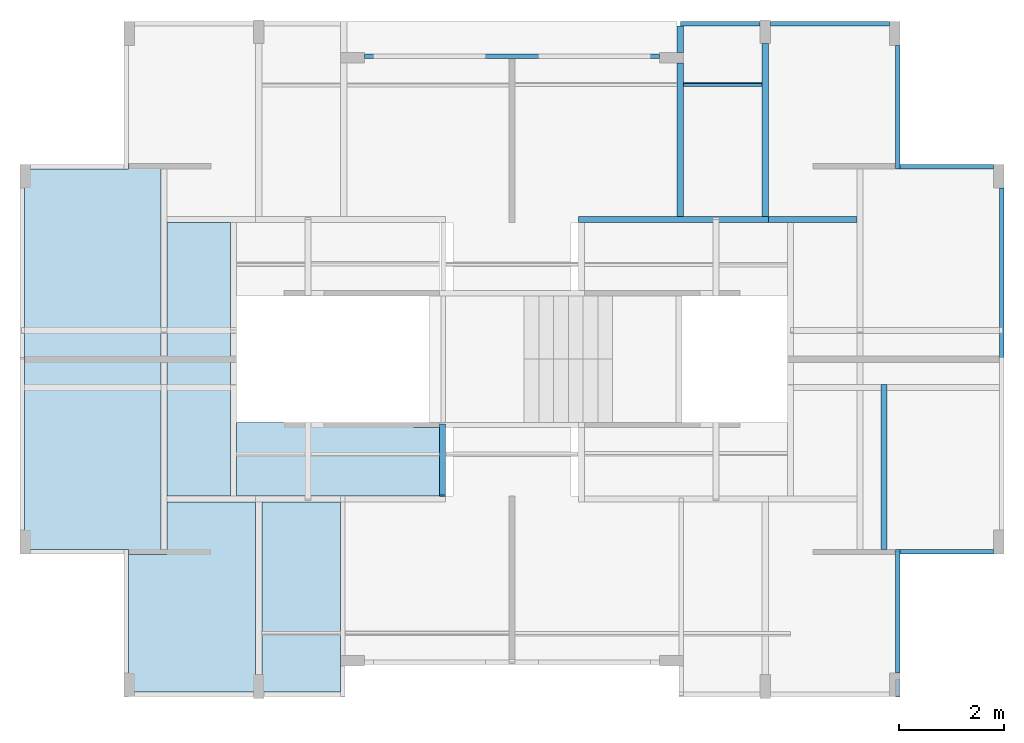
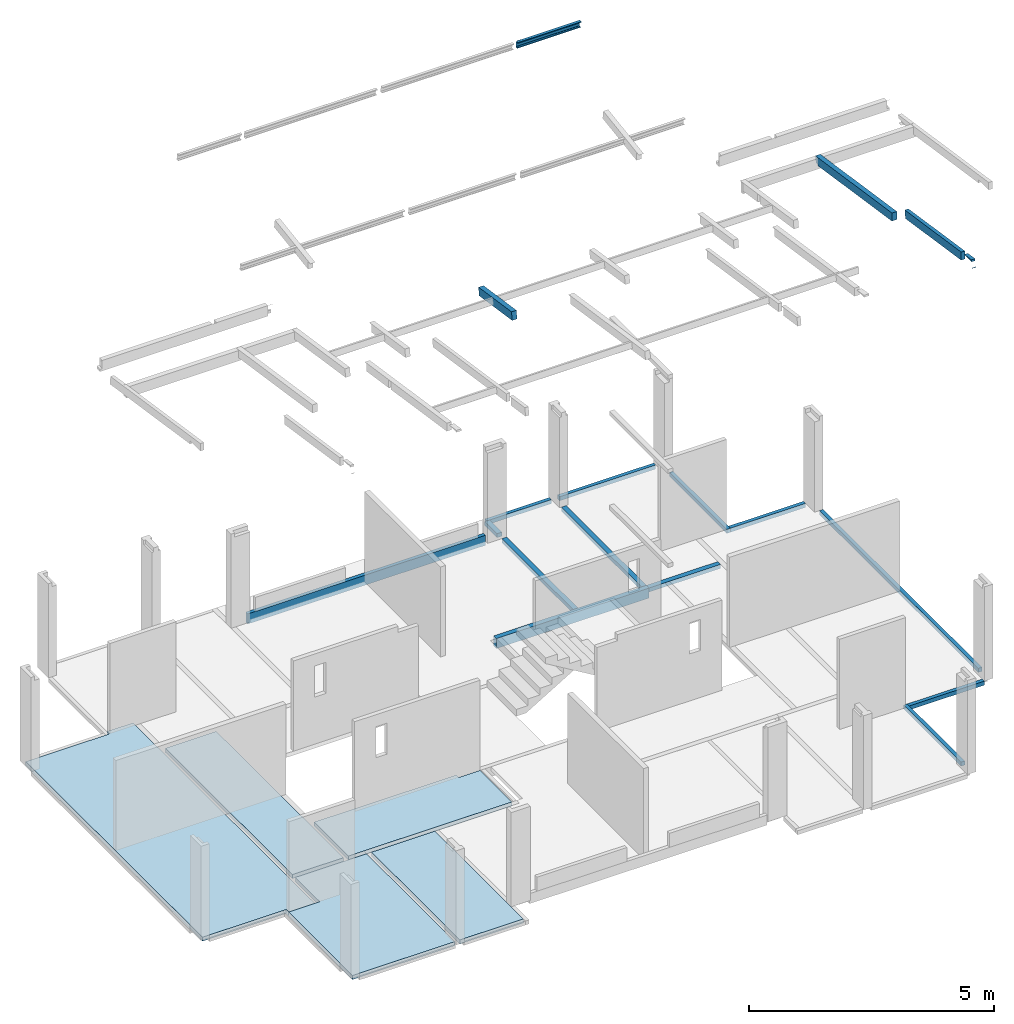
# One storey, part 5 of 9: 15 beams, 5 slabs.
"""IFC4 building model written with IfcOpenShell, lengths in metres."""

from ifc_helpers import new_model, entity, si_unit, converted_unit, derived_unit, direction, frame, frame_2d, origin, place, context, subcontext, project, spatial, polyline, line, arc, indexed_curve, rectangle, outline, extrude, polygons, source, transform, mapped, material, type_object, type_shapes, element, save


model = new_model("IFC4")

# Units and contexts
model_context = context("Model", 3, precision=1e-05, world=origin(), true_north=direction((6.123031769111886e-17, 1.0)))
body_context = subcontext(model_context, "Body", "Model", "MODEL_VIEW")
ifc_project = project(units=[si_unit("LENGTHUNIT", "METRE"), si_unit("AREAUNIT", "SQUARE_METRE"), si_unit("VOLUMEUNIT", "CUBIC_METRE"), converted_unit("PLANEANGLEUNIT", "DEGREE", entity("IfcRatioMeasure", 0.017453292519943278), si_unit("PLANEANGLEUNIT", "RADIAN"), dimensions=[0, 0, 0, 0, 0, 0, 0]), si_unit("MASSUNIT", "GRAM", prefix="KILO"), derived_unit("MASSDENSITYUNIT", [(si_unit("MASSUNIT", "GRAM", prefix="KILO"), 1), (si_unit("LENGTHUNIT", "METRE"), -3)]), derived_unit("IONCONCENTRATIONUNIT", [(si_unit("MASSUNIT", "GRAM", prefix="KILO"), 1), (si_unit("LENGTHUNIT", "METRE"), -3)]), derived_unit("MOMENTOFINERTIAUNIT", [(si_unit("LENGTHUNIT", "METRE"), 4)]), si_unit("TIMEUNIT", "SECOND"), si_unit("FREQUENCYUNIT", "HERTZ"), si_unit("THERMODYNAMICTEMPERATUREUNIT", "DEGREE_CELSIUS"), derived_unit("THERMALTRANSMITTANCEUNIT", [(si_unit("MASSUNIT", "GRAM", prefix="KILO"), 1), (si_unit("THERMODYNAMICTEMPERATUREUNIT", "KELVIN"), -1), (si_unit("TIMEUNIT", "SECOND"), -3)]), derived_unit("THERMALCONDUCTANCEUNIT", [(si_unit("MASSUNIT", "GRAM", prefix="KILO"), 1), (si_unit("THERMODYNAMICTEMPERATUREUNIT", "KELVIN"), -1), (si_unit("TIMEUNIT", "SECOND"), -3), (si_unit("LENGTHUNIT", "METRE"), 1)]), derived_unit("VOLUMETRICFLOWRATEUNIT", [(si_unit("LENGTHUNIT", "METRE"), 3), (si_unit("TIMEUNIT", "SECOND"), -1)]), derived_unit("MASSFLOWRATEUNIT", [(si_unit("MASSUNIT", "GRAM", prefix="KILO"), 1), (si_unit("TIMEUNIT", "SECOND"), -1)]), derived_unit("ROTATIONALFREQUENCYUNIT", [(si_unit("TIMEUNIT", "SECOND"), -1)]), si_unit("ELECTRICCURRENTUNIT", "AMPERE"), si_unit("ELECTRICVOLTAGEUNIT", "VOLT"), si_unit("POWERUNIT", "WATT"), si_unit("FORCEUNIT", "NEWTON", prefix="KILO"), si_unit("ILLUMINANCEUNIT", "LUX"), si_unit("LUMINOUSFLUXUNIT", "LUMEN"), si_unit("LUMINOUSINTENSITYUNIT", "CANDELA"), derived_unit("USERDEFINED", [(si_unit("MASSUNIT", "GRAM", prefix="KILO"), -1), (si_unit("LENGTHUNIT", "METRE"), -2), (si_unit("TIMEUNIT", "SECOND"), 3), (si_unit("LUMINOUSFLUXUNIT", "LUMEN"), 1)]), derived_unit("USERDEFINED", [(si_unit("MASSUNIT", "GRAM", prefix="KILO"), 1), (si_unit("TIMEUNIT", "SECOND"), -3), (si_unit("LENGTHUNIT", "METRE"), 3), (si_unit("ELECTRICCURRENTUNIT", "AMPERE"), -2)]), derived_unit("SOUNDPOWERUNIT", [(si_unit("MASSUNIT", "GRAM", prefix="KILO"), 1), (si_unit("TIMEUNIT", "SECOND"), -3), (si_unit("LENGTHUNIT", "METRE"), 2)]), derived_unit("SOUNDPRESSUREUNIT", [(si_unit("MASSUNIT", "GRAM", prefix="KILO"), 1), (si_unit("LENGTHUNIT", "METRE"), -1), (si_unit("TIMEUNIT", "SECOND"), -2)]), derived_unit("LINEARVELOCITYUNIT", [(si_unit("LENGTHUNIT", "METRE"), 1), (si_unit("TIMEUNIT", "SECOND"), -1)]), si_unit("PRESSUREUNIT", "PASCAL"), derived_unit("USERDEFINED", [(si_unit("MASSUNIT", "GRAM", prefix="KILO"), 1), (si_unit("LENGTHUNIT", "METRE"), -2), (si_unit("TIMEUNIT", "SECOND"), -2)]), derived_unit("LINEARFORCEUNIT", [(si_unit("MASSUNIT", "GRAM", prefix="KILO"), 1), (si_unit("TIMEUNIT", "SECOND"), -2)]), derived_unit("PLANARFORCEUNIT", [(si_unit("MASSUNIT", "GRAM", prefix="KILO"), 1), (si_unit("LENGTHUNIT", "METRE"), -1), (si_unit("TIMEUNIT", "SECOND"), -2)]), derived_unit("SPECIFICHEATCAPACITYUNIT", [(si_unit("THERMODYNAMICTEMPERATUREUNIT", "KELVIN"), -1), (si_unit("LENGTHUNIT", "METRE"), 2), (si_unit("TIMEUNIT", "SECOND"), -2)]), derived_unit("HEATINGVALUEUNIT", [(si_unit("LENGTHUNIT", "METRE"), 2), (si_unit("TIMEUNIT", "SECOND"), -2)]), derived_unit("VAPORPERMEABILITYUNIT", [(si_unit("LENGTHUNIT", "METRE"), -1), (si_unit("TIMEUNIT", "SECOND"), 1)]), derived_unit("DYNAMICVISCOSITYUNIT", [(si_unit("MASSUNIT", "GRAM", prefix="KILO"), 1), (si_unit("TIMEUNIT", "SECOND"), -1), (si_unit("LENGTHUNIT", "METRE"), -1)]), derived_unit("THERMALEXPANSIONCOEFFICIENTUNIT", [(si_unit("THERMODYNAMICTEMPERATUREUNIT", "KELVIN"), -1)]), derived_unit("MODULUSOFELASTICITYUNIT", [(si_unit("MASSUNIT", "GRAM", prefix="KILO"), 1), (si_unit("LENGTHUNIT", "METRE"), -1), (si_unit("TIMEUNIT", "SECOND"), -2)]), derived_unit("ISOTHERMALMOISTURECAPACITYUNIT", [(si_unit("LENGTHUNIT", "METRE"), 3), (si_unit("MASSUNIT", "GRAM", prefix="KILO"), -1)]), derived_unit("MOISTUREDIFFUSIVITYUNIT", [(si_unit("TIMEUNIT", "SECOND"), -1), (si_unit("LENGTHUNIT", "METRE"), 2)])], contexts=[model_context])

# Site, building, storey
site_placement = place(None, origin())
site = spatial("IfcSite", under=ifc_project, at=site_placement, Name="Default", CompositionType="ELEMENT")
building_placement = place(site_placement, origin())
building = spatial("IfcBuilding", under=site, at=building_placement, Name="Las nubes", CompositionType="ELEMENT")
storey_placement = place(building_placement, frame((0.0, 0.0, 2.3500000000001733)))
storey = spatial("IfcBuildingStorey", under=building, at=storey_placement, Name="PISO 2", CompositionType="ELEMENT", Elevation=2.3500000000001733)

# Beams
ifc_material_1 = material(Name="Concrete - Cast-in-Place Concrete - 28 MPa SLAB", Category="Materials")
beam_type_1 = type_object("IfcBeamType", Name="M_Concrete-Rectangular Beam:(0.085x0.10)", PredefinedType="BEAM", material=ifc_material_1)
shared_shape_1 = source(origin(), body_context, "Body", "SweptSolid", [
    extrude(outline(indexed_curve([(-0.042500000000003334, -0.05), (0.042499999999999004, -0.05), (0.042499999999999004, 0.05), (-0.042500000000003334, 0.05), (-0.042500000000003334, -0.05)], self_intersect=False)), frame((16.655000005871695, -12.390000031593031, 2.3000000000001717), z_axis=(0.0, 1.0, 0.0), x_axis=(-1.0, 0.0, 0.0)), (0.0, 0.0, 1.0), 2.3500028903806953),
])
type_shapes(beam_type_1, [shared_shape_1])
beam_1_placement = place(storey_placement, frame((0.0, 0.0, -2.3500000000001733)))
element("IfcBeam", 1, at=beam_1_placement, inside=storey, type_object=beam_type_1, material=ifc_material_1, Name="M_Concrete-Rectangular Beam:(0.085x0.10)", ObjectType="M_Concrete-Rectangular Beam:(0.085x0.10)", PredefinedType="BEAM", context=body_context, shape_type="MappedRepresentation", body=[
    mapped(shared_shape_1, transform((0.0, 0.0, 0.0), scale=1.0)),
])
beam_type_2 = type_object("IfcBeamType", Name="M_Concrete-Rectangular Beam:(0.085x0.10)", PredefinedType="BEAM", material=ifc_material_1)
shared_shape_2 = source(origin(), body_context, "Body", "SweptSolid", [
    extrude(outline(indexed_curve([(-0.050000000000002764, -0.04249999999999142), (0.04999999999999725, -0.042500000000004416), (0.050000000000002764, 0.04249999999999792), (-0.04999999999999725, 0.042500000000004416), (-0.050000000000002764, -0.04249999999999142)], self_intersect=False)), frame((16.697500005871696, -10.082497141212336, 2.3000000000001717), z_axis=(1.0, 0.0, 0.0), x_axis=(0.0, 0.0, -1.0)), (0.0, 0.0, 1.0), 1.7749999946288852),
])
type_shapes(beam_type_2, [shared_shape_2])
beam_2_placement = place(storey_placement, frame((0.0, 0.0, -2.3500000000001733)))
element("IfcBeam", 2, at=beam_2_placement, inside=storey, type_object=beam_type_2, material=ifc_material_1, Name="M_Concrete-Rectangular Beam:(0.085x0.10)", ObjectType="M_Concrete-Rectangular Beam:(0.085x0.10)", PredefinedType="BEAM", context=body_context, shape_type="MappedRepresentation", body=[
    mapped(shared_shape_2, transform((0.0, 0.0, 0.0), scale=1.0)),
])
beam_type_3 = type_object("IfcBeamType", Name="M_Concrete-Rectangular Beam:(0.085x0.10)", PredefinedType="BEAM", material=ifc_material_1)
shared_shape_3 = source(origin(), body_context, "Body", "SweptSolid", [
    extrude(outline(indexed_curve([(-0.042499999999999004, -0.05), (0.042500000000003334, -0.05), (0.042500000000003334, 0.05), (-0.042499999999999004, 0.05), (-0.042499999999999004, -0.05)], self_intersect=False)), frame((18.630000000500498, -9.675000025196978, 2.3000000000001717), z_axis=(0.0, 1.0, 0.0), x_axis=(-1.0, 0.0, 0.0)), (0.0, 0.0, 1.0), 6.499999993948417),
])
type_shapes(beam_type_3, [shared_shape_3])
beam_3_placement = place(storey_placement, frame((0.0, 0.0, -2.3500000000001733)))
element("IfcBeam", 3, at=beam_3_placement, inside=storey, type_object=beam_type_3, material=ifc_material_1, Name="M_Concrete-Rectangular Beam:(0.085x0.10)", ObjectType="M_Concrete-Rectangular Beam:(0.085x0.10)", PredefinedType="BEAM", context=body_context, shape_type="MappedRepresentation", body=[
    mapped(shared_shape_3, transform((0.0, 0.0, 0.0), scale=1.0)),
])
beam_type_4 = type_object("IfcBeamType", Name="M_Concrete-Rectangular Beam:(0.085x0.10)", PredefinedType="BEAM", material=ifc_material_1)
shared_shape_4 = source(origin(), body_context, "Body", "SweptSolid", [
    extrude(outline(indexed_curve([(-0.042500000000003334, -0.05), (0.042499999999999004, -0.05), (0.042499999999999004, 0.05), (-0.042500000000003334, 0.05), (-0.042500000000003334, -0.05)], self_intersect=False)), frame((16.65500000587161, -2.8099983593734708, 2.3000000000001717), z_axis=(0.0, 1.0, 0.0), x_axis=(-1.0, 0.0, 0.0)), (0.0, 0.0, 1.0), 2.34999833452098),
])
type_shapes(beam_type_4, [shared_shape_4])
beam_4_placement = place(storey_placement, frame((0.0, 0.0, -2.3500000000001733)))
element("IfcBeam", 4, at=beam_4_placement, inside=storey, type_object=beam_type_4, material=ifc_material_1, Name="M_Concrete-Rectangular Beam:(0.085x0.10)", ObjectType="M_Concrete-Rectangular Beam:(0.085x0.10)", PredefinedType="BEAM", context=body_context, shape_type="MappedRepresentation", body=[
    mapped(shared_shape_4, transform((0.0, 0.0, 0.0), scale=1.0)),
])
ifc_material_2 = material(Name="Concrete, Cast In Situ", Category="Materials")
beam_type_5 = type_object("IfcBeamType", Name="M_Concrete-Rectangular Beam:(0.115x0.25)", PredefinedType="BEAM", material=ifc_material_2)
shared_shape_5 = source(origin(), body_context, "Body", "SweptSolid", [
    extrude(outline(indexed_curve([(-0.12500000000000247, -0.05749999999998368), (0.12499999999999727, -0.0575000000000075), (0.12500000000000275, 0.05749999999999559), (-0.124999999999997, 0.0575000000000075), (-0.12500000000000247, -0.05749999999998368)], self_intersect=False)), frame((10.58249999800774, -3.767499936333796, 2.2250000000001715), z_axis=(1.0, 0.0, 0.0), x_axis=(0.0, 0.0, -1.0)), (0.0, 0.0, 1.0), 3.6100000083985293),
])
type_shapes(beam_type_5, [shared_shape_5])
beam_5_placement = place(storey_placement, frame((0.0, 0.0, -2.3500000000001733)))
element("IfcBeam", 5, at=beam_5_placement, inside=storey, type_object=beam_type_5, material=ifc_material_2, Name="M_Concrete-Rectangular Beam:(0.115x0.25)", ObjectType="M_Concrete-Rectangular Beam:(0.115x0.25)", PredefinedType="BEAM", context=body_context, shape_type="MappedRepresentation", body=[
    mapped(shared_shape_5, transform((0.0, 0.0, 0.0), scale=1.0)),
])
beam_type_6 = type_object("IfcBeamType", Name="M_Concrete-Rectangular Beam:(0.085x0.25)", PredefinedType="BEAM", material=ifc_material_2)
shared_shape_6 = source(origin(), body_context, "Body", "SweptSolid", [
    extrude(outline(indexed_curve([(-0.12500000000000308, -0.042499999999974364), (0.12499999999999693, -0.04250000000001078), (0.12500000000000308, 0.04249999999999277), (-0.12499999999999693, 0.04250000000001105), (-0.12500000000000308, -0.042499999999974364)], self_intersect=False)), frame((6.517499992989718, -0.6675000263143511, 2.3750000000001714), z_axis=(1.0, 0.0, 0.0), x_axis=(0.0, 0.0, -1.0)), (0.0, 0.0, 1.0), 5.610000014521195),
])
type_shapes(beam_type_6, [shared_shape_6])
beam_6_placement = place(storey_placement, frame((0.0, 0.0, -2.3500000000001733)))
element("IfcBeam", 6, at=beam_6_placement, inside=storey, type_object=beam_type_6, material=ifc_material_2, Name="M_Concrete-Rectangular Beam:(0.085x0.25)", ObjectType="M_Concrete-Rectangular Beam:(0.085x0.25)", PredefinedType="BEAM", context=body_context, shape_type="MappedRepresentation", body=[
    mapped(shared_shape_6, transform((0.0, 0.0, 0.0), scale=1.0)),
])
beam_type_7 = type_object("IfcBeamType", Name="M_Concrete-Rectangular Beam:(0.115x0.10)", PredefinedType="BEAM", material=ifc_material_2)
shared_shape_7 = source(origin(), body_context, "Body", "SweptSolid", [
    extrude(outline(indexed_curve([(-0.05000000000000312, -0.057499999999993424), (0.049999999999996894, -0.057500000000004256), (0.05000000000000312, 0.057499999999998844), (-0.049999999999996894, 0.057500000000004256), (-0.05000000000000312, -0.057499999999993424)], self_intersect=False)), frame((14.192500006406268, -3.7675000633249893, 2.3000000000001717), z_axis=(1.0, 0.0, 0.0), x_axis=(0.0, 0.0, -1.0)), (0.0, 0.0, 1.0), 1.6849989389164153),
])
type_shapes(beam_type_7, [shared_shape_7])
beam_7_placement = place(storey_placement, frame((0.0, 0.0, -2.3500000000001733)))
element("IfcBeam", 7, at=beam_7_placement, inside=storey, type_object=beam_type_7, material=ifc_material_2, Name="M_Concrete-Rectangular Beam:(0.115x0.10)", ObjectType="M_Concrete-Rectangular Beam:(0.115x0.10)", PredefinedType="BEAM", context=body_context, shape_type="MappedRepresentation", body=[
    mapped(shared_shape_7, transform((0.0, 0.0, 0.0), scale=1.0)),
])
beam_type_8 = type_object("IfcBeamType", Name="M_Concrete-Rectangular Beam:(0.115x0.10)", PredefinedType="BEAM", material=ifc_material_2)
shared_shape_8 = source(origin(), body_context, "Body", "SweptSolid", [
    extrude(outline(indexed_curve([(-0.057499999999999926, -0.05), (0.05750000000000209, -0.05), (0.057500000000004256, 0.05), (-0.05750000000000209, 0.05), (-0.057499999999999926, -0.05)], self_intersect=False)), frame((14.135000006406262, -0.4300000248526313, 2.3000000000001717), z_axis=(0.0, -1.0, 0.0), x_axis=(-1.0, 0.0, 0.0)), (0.0, 0.0, 1.0), 3.2799999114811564),
])
type_shapes(beam_type_8, [shared_shape_8])
beam_8_placement = place(storey_placement, frame((0.0, 0.0, -2.3500000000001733)))
element("IfcBeam", 8, at=beam_8_placement, inside=storey, type_object=beam_type_8, material=ifc_material_2, Name="M_Concrete-Rectangular Beam:(0.115x0.10)", ObjectType="M_Concrete-Rectangular Beam:(0.115x0.10)", PredefinedType="BEAM", context=body_context, shape_type="MappedRepresentation", body=[
    mapped(shared_shape_8, transform((0.0, 0.0, 0.0), scale=1.0)),
])
beam_type_9 = type_object("IfcBeamType", Name="M_Concrete-Rectangular Beam:(0.085x0.10)", PredefinedType="BEAM", material=ifc_material_2)
shared_shape_9 = source(origin(), body_context, "Body", "SweptSolid", [
    extrude(outline(indexed_curve([(-0.050000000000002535, -0.04249999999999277), (0.04999999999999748, -0.04250000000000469), (0.050000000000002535, 0.04249999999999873), (-0.04999999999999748, 0.04250000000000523), (-0.050000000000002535, -0.04249999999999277)], self_intersect=False)), frame((18.472500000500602, -2.7674983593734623, 2.3000000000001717), z_axis=(-1.0, 0.0, 0.0), x_axis=(0.0, 0.0, -1.0)), (0.0, 0.0, 1.0), 1.7749999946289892),
])
type_shapes(beam_type_9, [shared_shape_9])
beam_9_placement = place(storey_placement, frame((0.0, 0.0, -2.3500000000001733)))
element("IfcBeam", 9, at=beam_9_placement, inside=storey, type_object=beam_type_9, material=ifc_material_2, Name="M_Concrete-Rectangular Beam:(0.085x0.10)", ObjectType="M_Concrete-Rectangular Beam:(0.085x0.10)", PredefinedType="BEAM", context=body_context, shape_type="MappedRepresentation", body=[
    mapped(shared_shape_9, transform((0.0, 0.0, 0.0), scale=1.0)),
])
beam_type_10 = type_object("IfcBeamType", Name="M_Concrete-Rectangular Beam:(0.085x0.10)", PredefinedType="BEAM", material=ifc_material_1)
shared_shape_10 = source(origin(), body_context, "Body", "SweptSolid", [
    extrude(outline(indexed_curve([(-0.050000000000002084, -0.042499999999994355), (0.04999999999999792, -0.04250000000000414), (0.050000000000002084, 0.04249999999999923), (-0.04999999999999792, 0.04250000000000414), (-0.050000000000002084, -0.042499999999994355)], self_intersect=False)), frame((14.035000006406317, -0.052500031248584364, 2.3000000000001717), z_axis=(-1.0, 0.0, 0.0), x_axis=(0.0, 0.0, -1.0)), (0.0, 0.0, 1.0), 1.5149999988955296),
    extrude(outline(indexed_curve([(-0.05000000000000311, -0.042499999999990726), (0.0499999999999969, -0.042500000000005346), (0.05000000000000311, 0.04249999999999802), (-0.0499999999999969, 0.042500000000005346), (-0.05000000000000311, -0.042499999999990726)], self_intersect=False)), frame((16.497500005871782, -0.05250003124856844, 2.3000000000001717), z_axis=(-1.0, 0.0, 0.0), x_axis=(0.0, 0.0, -1.0)), (0.0, 0.0, 1.0), 2.2624999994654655),
])
type_shapes(beam_type_10, [shared_shape_10])
beam_10_placement = place(storey_placement, frame((0.0, 0.0, -2.3500000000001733)))
element("IfcBeam", 10, at=beam_10_placement, inside=storey, type_object=beam_type_10, material=ifc_material_1, Name="M_Concrete-Rectangular Beam:(0.085x0.10)", ObjectType="M_Concrete-Rectangular Beam:(0.085x0.10)", PredefinedType="BEAM", context=body_context, shape_type="MappedRepresentation", body=[
    mapped(shared_shape_10, transform((0.0, 0.0, 0.0), scale=1.0)),
])
beam_type_11 = type_object("IfcBeamType", Name="M_Concrete-Rectangular Beam:(0.115x0.10)", PredefinedType="BEAM", material=ifc_material_2)
shared_shape_11 = source(origin(), body_context, "Body", "SweptSolid", [
    extrude(outline(indexed_curve([(-0.05750000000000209, -0.05), (0.05750000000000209, -0.05), (0.05750000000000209, 0.05), (-0.05750000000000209, 0.05), (-0.05750000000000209, -0.05)], self_intersect=False)), frame((12.520000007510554, -0.09516166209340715, 2.3000000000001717), z_axis=(0.0, -1.0, 0.0), x_axis=(-1.0, 0.0, 0.0)), (0.0, 0.0, 1.0), 0.49983836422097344),
    extrude(outline(indexed_curve([(-0.05750000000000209, -0.05), (0.05750000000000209, -0.05), (0.05750000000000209, 0.05), (-0.05750000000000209, 0.05), (-0.05750000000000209, -0.05)], self_intersect=False)), frame((12.520000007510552, -0.7950000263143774, 2.3000000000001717), z_axis=(0.0, -1.0, 0.0), x_axis=(-1.0, 0.0, 0.0)), (0.0, 0.0, 1.0), 2.9149999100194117),
])
type_shapes(beam_type_11, [shared_shape_11])
beam_11_placement = place(storey_placement, frame((0.0, 0.0, -2.3500000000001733)))
element("IfcBeam", 11, at=beam_11_placement, inside=storey, type_object=beam_type_11, material=ifc_material_2, Name="M_Concrete-Rectangular Beam:(0.115x0.10)", ObjectType="M_Concrete-Rectangular Beam:(0.115x0.10)", PredefinedType="BEAM", context=body_context, shape_type="MappedRepresentation", body=[
    mapped(shared_shape_11, transform((0.0, 0.0, 0.0), scale=1.0)),
])
beam_type_12 = type_object("IfcBeamType", Name="M_Concrete-Rectangular Beam:(0.115x0.20)", PredefinedType="BEAM", material=ifc_material_2)
shared_shape_12 = source(origin(), body_context, "Body", "Tessellation", [
    polygons([(0.1150000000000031, 0.029668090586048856, -2.1657342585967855e-15), (0.0, 0.029668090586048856, -2.1657342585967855e-15), (0.0, 1.0828671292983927e-15, -0.19778727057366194), (0.1150000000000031, 0.0, -0.19778727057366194), (6.497202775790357e-15, 1.3499999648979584, -0.40028726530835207), (6.497202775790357e-15, 1.378873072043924, -0.20779988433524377), (6.497202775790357e-15, 1.3796680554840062, -0.2024999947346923), (0.11500000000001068, 1.3796680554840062, -0.2024999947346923), (0.11500000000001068, 1.378873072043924, -0.20779988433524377), (0.02999999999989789, 1.378873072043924, -0.20779988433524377), (0.02999999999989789, 1.3499999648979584, -0.40028726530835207), (0.11500000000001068, 1.3148340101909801, -0.3950123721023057), (0.11500000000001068, 1.3148340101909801, -0.20779988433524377), (7.580069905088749e-15, 1.3148340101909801, -0.3950123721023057), (0.02999999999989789, 1.314834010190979, -0.3950123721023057), (0.02999999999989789, 1.3148340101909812, -0.20779988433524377), (0.02999999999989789, 1.3148340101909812, -0.3738998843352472)], [[[1, 2, 3, 4]], [[5, 6, 7, 8, 9, 10, 11]], [[2, 1, 8, 7]], [[1, 4, 12, 13, 9, 8]], [[4, 3, 14, 5, 11, 15, 12]], [[3, 2, 7, 6, 5, 14]], [[13, 16, 10, 9]], [[16, 13, 12, 15, 17]], [[10, 16, 17, 15, 11]]], closed=True),
])
type_shapes(beam_type_12, [shared_shape_12])
beam_12_placement = place(storey_placement, frame((7.9475000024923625, -9.039834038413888, 12.22389988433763)))
element("IfcBeam", 12, at=beam_12_placement, inside=storey, type_object=beam_type_12, material=ifc_material_2, Name="M_Concrete-Rectangular Beam:(0.115x0.20)", ObjectType="M_Concrete-Rectangular Beam:(0.115x0.20)", PredefinedType="BEAM", context=body_context, shape_type="MappedRepresentation", body=[
    mapped(shared_shape_12, transform((0.0, 0.0, 0.0), scale=1.0)),
])
beam_type_13 = type_object("IfcBeamType", Name="M_Concrete-Rectangular Beam:(0.115x0.20)", PredefinedType="BEAM", material=ifc_material_2)
shared_shape_13 = source(origin(), body_context, "Body", "SweptSolid", [
    extrude(outline(indexed_curve([(-0.4440690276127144, -2.4056099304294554), (-0.24183154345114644, -2.4056099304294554), (0.21041845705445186, 0.6093900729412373), (0.1843059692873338, 0.6093900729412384), (0.1843059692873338, 0.7014792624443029), (0.031567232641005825, 0.7243900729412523), (0.025566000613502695, 0.7252902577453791), (0.025430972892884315, 0.7243900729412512), (0.02430596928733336, 0.7168900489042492), (-0.4440690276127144, -2.4056099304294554)], self_intersect=False)), frame((16.334998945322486, -7.63439010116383, 14.284305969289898), z_axis=(1.0, 0.0, 0.0), x_axis=(0.0, 0.0, -1.0)), (0.0, 0.0, 1.0), 0.11500000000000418),
])
type_shapes(beam_type_13, [shared_shape_13])
beam_13_placement = place(storey_placement, frame((0.0, 0.0, -2.3500000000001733)))
element("IfcBeam", 13, at=beam_13_placement, inside=storey, type_object=beam_type_13, material=ifc_material_2, Name="M_Concrete-Rectangular Beam:(0.115x0.20)", ObjectType="M_Concrete-Rectangular Beam:(0.115x0.20)", PredefinedType="BEAM", context=body_context, shape_type="MappedRepresentation", body=[
    mapped(shared_shape_13, transform((0.0, 0.0, 0.0), scale=1.0)),
])
beam_type_14 = type_object("IfcBeamType", Name="M_Concrete-Rectangular Beam:(0.085x0.20)", PredefinedType="BEAM", material=ifc_material_2)
shared_shape_14 = source(origin(), body_context, "Body", "SweptSolid", [
    extrude(outline(indexed_curve([(-0.7774622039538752, -0.10108702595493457), (1.5558527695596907, -0.10108702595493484), (1.525852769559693, 0.09891297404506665), (-0.7493189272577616, 0.09891297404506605), (-0.7774622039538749, 0.0989129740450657), (-0.777462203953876, -0.09456487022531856), (-0.7774622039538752, -0.10108702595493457)], self_intersect=False)), frame((16.612500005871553, -10.866355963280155, 14.750110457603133), z_axis=(1.0, 0.0, 0.0), x_axis=(0.0, -0.9889363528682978, 0.14834045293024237)), (0.0, 0.0, 1.0), 0.08500000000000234),
    extrude(outline(indexed_curve([(-0.0007307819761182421, -0.004871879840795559), (0.0014615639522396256, -0.0048718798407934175), (-0.0007307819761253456, 0.009743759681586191), (-0.0007307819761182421, -0.004871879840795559)], self_intersect=False)), frame((16.612500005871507, -12.840722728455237, 14.951172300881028), z_axis=(1.0, 0.0, 0.0), x_axis=(0.0, 0.9889363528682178, -0.148340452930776)), (0.0, 0.0, 1.0), 0.08500000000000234),
    extrude(outline(indexed_curve([(-0.10275832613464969, -0.014749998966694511), (0.19887915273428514, -0.014749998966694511), (-0.0961208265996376, 0.02949999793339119), (-0.10275832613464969, -0.014749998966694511)], self_intersect=False)), frame((16.61250000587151, -12.716379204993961, 15.114749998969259), z_axis=(1.0, 0.0, 0.0), x_axis=(0.0, 1.0, 0.0)), (0.0, 0.0, 1.0), 0.08500000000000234),
])
type_shapes(beam_type_14, [shared_shape_14])
beam_14_placement = place(storey_placement, frame((0.0, 0.0, -2.3500000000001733)))
element("IfcBeam", 14, at=beam_14_placement, inside=storey, type_object=beam_type_14, material=ifc_material_2, Name="M_Concrete-Rectangular Beam:(0.085x0.20)", ObjectType="M_Concrete-Rectangular Beam:(0.085x0.20)", PredefinedType="BEAM", context=body_context, shape_type="MappedRepresentation", body=[
    mapped(shared_shape_14, transform((0.0, 0.0, 0.0), scale=1.0)),
])
ifc_material_3 = material(Name="Steel - 300+", Category="Materials")
beam_type_15 = type_object("IfcBeamType", Name="AUS-C Purlin:CR-1", PredefinedType="BEAM", material=ifc_material_3)
shared_shape_15 = source(origin(), body_context, "Body", "SweptSolid", [
    extrude(outline(indexed_curve([(-0.07614999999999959, -0.023850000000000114), (-0.05965000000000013, -0.023850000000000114), (-0.05965000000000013, -0.02185000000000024), (-0.07615000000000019, -0.02185000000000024), (-0.07721066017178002, -0.021410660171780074), (-0.0776500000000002, -0.020350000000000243), (-0.07765000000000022, 0.03265000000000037), (-0.07721066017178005, 0.033710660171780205), (-0.0761500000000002, 0.03415000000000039), (0.0733499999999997, 0.03415000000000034), (0.07688553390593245, 0.03268553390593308), (0.07834999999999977, 0.029150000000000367), (0.07834999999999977, -0.02035000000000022), (0.07791066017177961, -0.021410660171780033), (0.07684999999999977, -0.02185000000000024), (0.06034999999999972, -0.02185000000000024), (0.06034999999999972, -0.023850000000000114), (0.07685000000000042, -0.023850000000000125), (0.07932487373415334, -0.022824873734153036), (0.0803500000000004, -0.020350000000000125), (0.0803500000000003, 0.029149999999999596), (0.078299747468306, 0.034099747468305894), (0.07334999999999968, 0.03615000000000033), (-0.07614999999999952, 0.036150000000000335), (-0.07862487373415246, 0.03512487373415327), (-0.07964999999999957, 0.032650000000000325), (-0.07964999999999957, -0.020350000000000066), (-0.07862487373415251, -0.022824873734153)], segments=[line(1, 2, 3, 4), arc(4, 5, 6), line(6, 7), arc(7, 8, 9), line(9, 10), arc(10, 11, 12), line(12, 13), arc(13, 14, 15), line(15, 16, 17, 18), arc(18, 19, 20), line(20, 21), arc(21, 22, 23), line(23, 24), arc(24, 25, 26), line(26, 27), arc(27, 28, 1)], self_intersect=False)), frame((-0.7569311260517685, -0.03415000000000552, 0.0003499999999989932), z_axis=(1.0, 0.0, 0.0), x_axis=(0.0, 0.0, -1.0)), (0.0, 0.0, 1.0), 1.4994311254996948),
])
type_shapes(beam_type_15, [shared_shape_15])
beam_15_placement = place(storey_placement, frame((13.33500000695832, -1.1788411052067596, 12.54215384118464), z_axis=(0.0, -0.14834045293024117, 0.9889363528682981), x_axis=(1.0, 0.0, 0.0)))
element("IfcBeam", 15, at=beam_15_placement, inside=storey, type_object=beam_type_15, material=ifc_material_3, Name="AUS-C Purlin:CR-1", ObjectType="AUS-C Purlin:CR-1", PredefinedType="BEAM", context=body_context, shape_type="MappedRepresentation", body=[
    mapped(shared_shape_15, transform((0.0, 0.0, 0.0), scale=1.0)),
])

# Slabs
slab_type = type_object("IfcSlabType", Name="Floor:PLACA ESTRUCTURAL 0.10", PredefinedType="FLOOR", material=ifc_material_1)
slab_1_placement = place(storey_placement, origin())
element("IfcSlab", 16, at=slab_1_placement, inside=storey, type_object=slab_type, material=ifc_material_1, Name="Floor:PLACA ESTRUCTURAL 0.10", ObjectType="Floor:PLACA ESTRUCTURAL 0.10", PredefinedType="FLOOR", context=body_context, shape_type="SweptSolid", body=[
    extrude(outline(indexed_curve([(-3.6149999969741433, -1.636250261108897), (3.614999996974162, -1.636250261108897), (3.614999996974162, 0.33874973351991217), (3.7150000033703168, 0.3387497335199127), (3.7150000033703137, 0.9587507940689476), (-3.7150000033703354, 0.9587507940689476), (-3.715000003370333, 0.33874973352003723), (-3.6149999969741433, 0.3387497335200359), (-3.6149999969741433, -1.636250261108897)], self_intersect=False)), frame((1.693750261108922, -6.425000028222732, 0.0), z_axis=(0.0, 0.0, -1.0), x_axis=(0.0, 1.0, 0.0)), (0.0, 0.0, 1.0), 0.1),
])
slab_2_placement = place(storey_placement, origin())
element("IfcSlab", 17, at=slab_2_placement, inside=storey, type_object=slab_type, material=ifc_material_1, Name="Floor:PLACA ESTRUCTURAL 0.10", ObjectType="Floor:PLACA ESTRUCTURAL 0.10", PredefinedType="FLOOR", context=body_context, shape_type="SweptSolid", body=[
    extrude(outline(indexed_curve([(-2.0766666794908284, -1.0516670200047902), (0.5383333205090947, -1.0516670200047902), (0.5383333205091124, -0.3166659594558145), (1.5383333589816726, -0.3166659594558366), (1.5383333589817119, 1.368332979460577), (-2.0766666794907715, 1.3683329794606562), (-2.0766666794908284, -1.0516670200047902)], self_intersect=False)), frame((3.0841670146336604, -10.67833335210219, 0.0), z_axis=(0.0, 0.0, -1.0), x_axis=(0.0, 1.0, 0.0)), (0.0, 0.0, 1.0), 0.1),
])
slab_3_placement = place(storey_placement, frame((2.767501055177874, -12.755000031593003, -0.10000000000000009)))
element("IfcSlab", 18, at=slab_3_placement, inside=storey, type_object=slab_type, material=ifc_material_1, Name="Floor:PLACA ESTRUCTURAL 0.10", ObjectType="Floor:PLACA ESTRUCTURAL 0.10", PredefinedType="FLOOR", context=body_context, shape_type="SweptSolid", body=[
    extrude(rectangle(XDim=1.2049989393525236, YDim=5.19999992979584, at=frame_2d((5.952499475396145, -0.04249999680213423), x_axis=(1.0, 0.0))), frame((6.554998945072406, 6.372500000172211, 0.09999999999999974), z_axis=(0.0, 0.0, -1.0), x_axis=(-1.0, 0.0, 0.0)), (0.0, 0.0, 1.0), 0.1),
])
slab_4_placement = place(storey_placement, frame((2.767501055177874, -12.755000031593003, -0.10000000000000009)))
element("IfcSlab", 19, at=slab_4_placement, inside=storey, type_object=slab_type, Name="Floor:PLACA ESTRUCTURAL 0.10:3", ObjectType="Floor:PLACA ESTRUCTURAL 0.10", PredefinedType="FLOOR", context=body_context, shape_type="SweptSolid", body=[
    extrude(outline(polyline([(5.235000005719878, -1.2424999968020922), (1.8749999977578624, -1.2424999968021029), (1.8749999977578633, -1.3424999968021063), (1.3749999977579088, -1.3424999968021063), (1.3749999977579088, -2.6425000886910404), (5.235000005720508, -2.6425000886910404), (5.235000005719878, -1.2424999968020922)])), frame((6.554998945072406, 6.372500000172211, 0.09999999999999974), z_axis=(0.0, 0.0, -1.0), x_axis=(-1.0, 0.0, 0.0)), (0.0, 0.0, 1.0), 0.1),
])
slab_5_placement = place(storey_placement, frame((2.767501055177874, -12.755000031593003, -0.10000000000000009)))
element("IfcSlab", 20, at=slab_5_placement, inside=storey, type_object=slab_type, Name="Floor:PLACA ESTRUCTURAL 0.10:5", ObjectType="Floor:PLACA ESTRUCTURAL 0.10", PredefinedType="FLOOR", context=body_context, shape_type="SweptSolid", body=[
    extrude(rectangle(XDim=3.6149999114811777, YDim=1.4999999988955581, at=frame_2d((4.005000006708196, -4.565000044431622), x_axis=(0.0, -1.0))), frame((6.554998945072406, 6.372500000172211, 0.09999999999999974), z_axis=(0.0, 0.0, -1.0), x_axis=(-1.0, 0.0, 0.0)), (0.0, 0.0, 1.0), 0.1),
])

save(model, "model.ifc")
